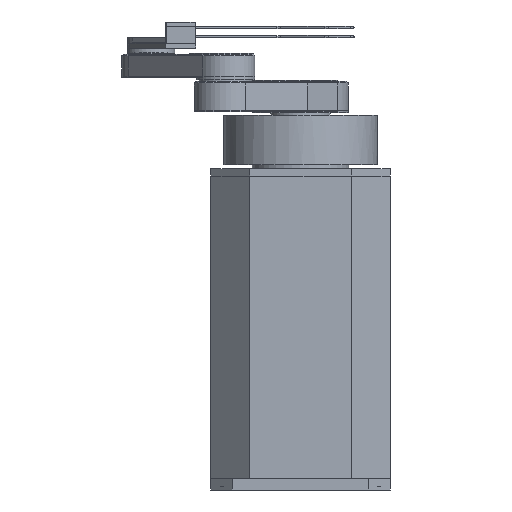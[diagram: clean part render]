
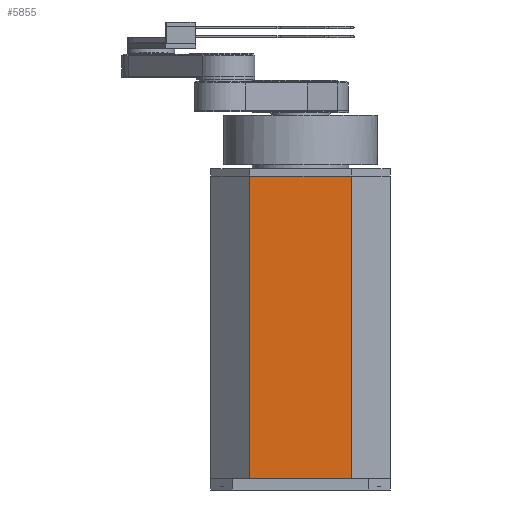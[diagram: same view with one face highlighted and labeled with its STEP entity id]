
A CAD part, front view. The second image highlights one B-rep face of the part: STEP entity #5855.
In plain terms, the highlighted planar face has unit normal (0, -1, 0).
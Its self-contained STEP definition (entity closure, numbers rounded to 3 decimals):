
#681=FACE_OUTER_BOUND('',#1060,.T.);
#1060=EDGE_LOOP('',(#4337,#4338,#4339,#4340));
#1569=LINE('',#9065,#2138);
#1597=LINE('',#9121,#2166);
#1599=LINE('',#9125,#2168);
#1600=LINE('',#9126,#2169);
#2138=VECTOR('',#7298,10.);
#2166=VECTOR('',#7352,10.);
#2168=VECTOR('',#7356,10.);
#2169=VECTOR('',#7357,10.);
#2720=VERTEX_POINT('',#9062);
#2721=VERTEX_POINT('',#9064);
#2736=VERTEX_POINT('',#9120);
#2737=VERTEX_POINT('',#9124);
#3329=EDGE_CURVE('',#2721,#2720,#1569,.T.);
#3357=EDGE_CURVE('',#2736,#2721,#1597,.T.);
#3359=EDGE_CURVE('',#2737,#2720,#1599,.T.);
#3360=EDGE_CURVE('',#2736,#2737,#1600,.T.);
#4337=ORIENTED_EDGE('',*,*,#3329,.T.);
#4338=ORIENTED_EDGE('',*,*,#3359,.F.);
#4339=ORIENTED_EDGE('',*,*,#3360,.F.);
#4340=ORIENTED_EDGE('',*,*,#3357,.T.);
#5589=PLANE('',#6441);
#5855=ADVANCED_FACE('',(#681),#5589,.T.);
#6441=AXIS2_PLACEMENT_3D('',#9123,#7354,#7355);
#7298=DIRECTION('',(-1.,0.,0.));
#7352=DIRECTION('',(0.,0.,1.));
#7354=DIRECTION('center_axis',(0.,-1.,0.));
#7355=DIRECTION('ref_axis',(0.,0.,-1.));
#7356=DIRECTION('',(0.,0.,1.));
#7357=DIRECTION('',(-1.,0.,0.));
#9062=CARTESIAN_POINT('',(-67.999,-119.999,420.));
#9064=CARTESIAN_POINT('',(67.999,-119.999,420.));
#9065=CARTESIAN_POINT('',(67.999,-119.999,420.));
#9120=CARTESIAN_POINT('',(67.999,-119.999,15.));
#9121=CARTESIAN_POINT('',(67.999,-119.999,15.));
#9123=CARTESIAN_POINT('Origin',(67.999,-119.999,15.));
#9124=CARTESIAN_POINT('',(-67.999,-119.999,15.));
#9125=CARTESIAN_POINT('',(-67.999,-119.999,15.));
#9126=CARTESIAN_POINT('',(34.,-119.999,15.));
